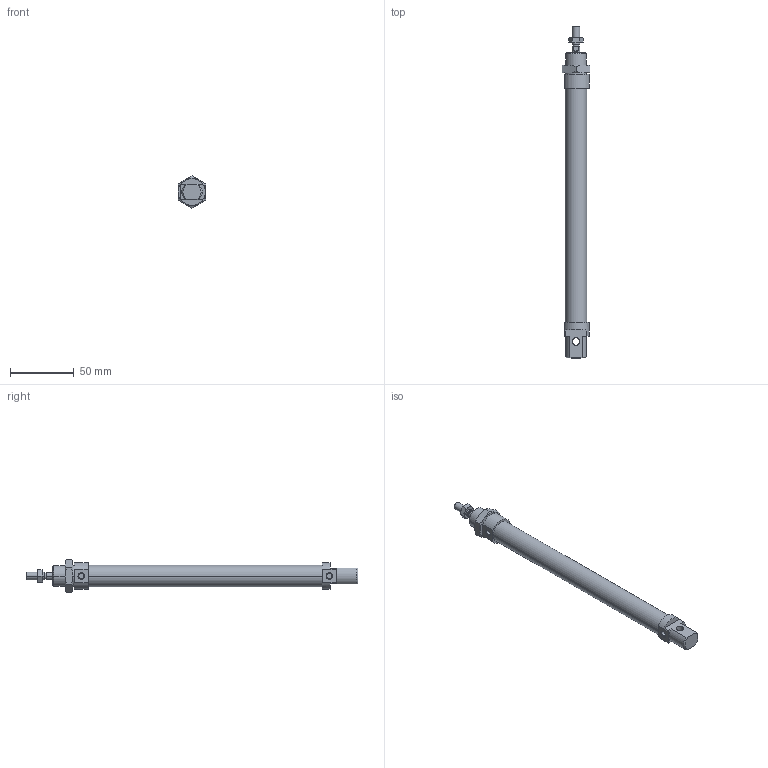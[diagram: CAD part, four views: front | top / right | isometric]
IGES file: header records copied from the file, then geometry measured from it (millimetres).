
Global section: file name: No Iges File Name specified; native system: Autodesk Inventor 2010; preprocessor: AutoDesk Inventor Iges Exporter R2010; author: rivolro1; date: 20090604.093227; units: millimetre
Bounding box: 22 x 261 x 25.4 mm (x, y, z)
Volume: 57713.7 mm3; surface area: 22807 mm2
Topology: 4 solids, 4 shells, 107 faces, 236 edges, 144 vertices
Faces by surface type: plane 39, cone 28, bspline 20, cylinder 14, revolution 6
